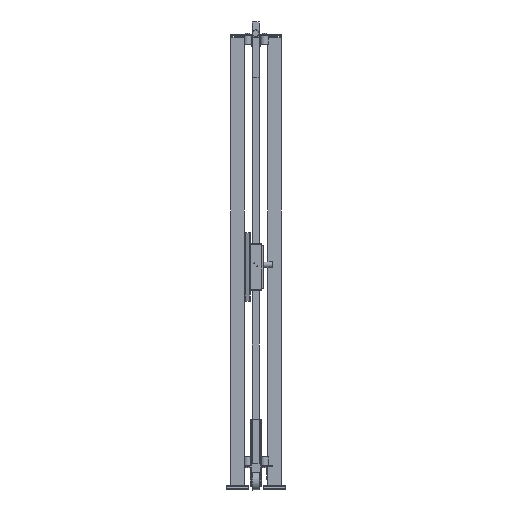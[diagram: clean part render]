
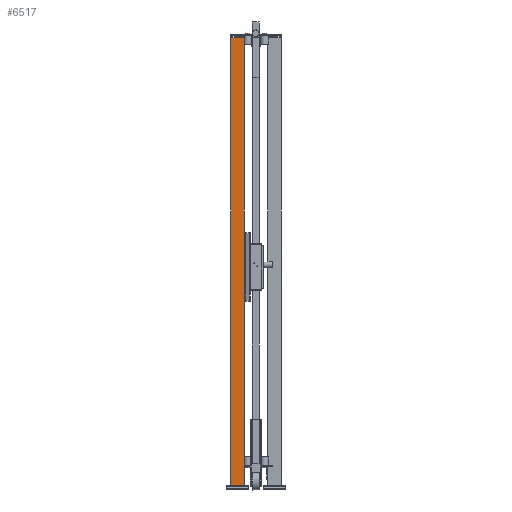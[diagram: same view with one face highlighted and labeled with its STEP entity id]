
A CAD part, left-side view. The second image highlights one B-rep face of the part: STEP entity #6517.
In plain terms, the highlighted planar face has unit normal (-1, 0, 0) as drawn and (0, 1, 0) by its records, which use the part's own axes.
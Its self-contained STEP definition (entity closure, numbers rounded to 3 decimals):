
#633=FACE_OUTER_BOUND('',#1159,.T.);
#1159=EDGE_LOOP('',(#4135,#4136,#4137,#4138));
#1763=VERTEX_POINT('',#14611);
#1764=VERTEX_POINT('',#14613);
#1766=VERTEX_POINT('',#14619);
#1769=VERTEX_POINT('',#14624);
#2653=EDGE_CURVE('',#1763,#1764,#7908,.T.);
#2659=EDGE_CURVE('',#1769,#1766,#7914,.T.);
#2662=EDGE_CURVE('',#1764,#1769,#7917,.T.);
#2663=EDGE_CURVE('',#1763,#1766,#7918,.T.);
#4135=ORIENTED_EDGE('',*,*,#2663,.T.);
#4136=ORIENTED_EDGE('',*,*,#2659,.F.);
#4137=ORIENTED_EDGE('',*,*,#2662,.F.);
#4138=ORIENTED_EDGE('',*,*,#2653,.F.);
#6061=PLANE('',#10052);
#6517=ADVANCED_FACE('',(#633),#6061,.F.);
#7908=LINE('',#14614,#9125);
#7914=LINE('',#14626,#9131);
#7917=LINE('',#14631,#9134);
#7918=LINE('',#14633,#9135);
#9125=VECTOR('',#11400,1.);
#9131=VECTOR('',#11408,1.);
#9134=VECTOR('',#11415,1.);
#9135=VECTOR('',#11418,1.);
#10052=AXIS2_PLACEMENT_3D('',#14632,#11416,#11417);
#11400=DIRECTION('',(-1.,0.,0.));
#11408=DIRECTION('',(1.,0.,0.));
#11415=DIRECTION('',(0.,0.,-1.));
#11416=DIRECTION('center_axis',(0.,-1.,0.));
#11417=DIRECTION('ref_axis',(0.,0.,-1.));
#11418=DIRECTION('',(0.,0.,-1.));
#14611=CARTESIAN_POINT('',(30.,30.,2020.));
#14613=CARTESIAN_POINT('',(-30.,30.,2020.));
#14614=CARTESIAN_POINT('',(0.,30.,2020.));
#14619=CARTESIAN_POINT('',(30.,30.,20.));
#14624=CARTESIAN_POINT('',(-30.,30.,20.));
#14626=CARTESIAN_POINT('',(0.,30.,20.));
#14631=CARTESIAN_POINT('',(-30.,30.,1020.));
#14632=CARTESIAN_POINT('Origin',(0.,30.,
1020.));
#14633=CARTESIAN_POINT('',(30.,30.,1020.));
